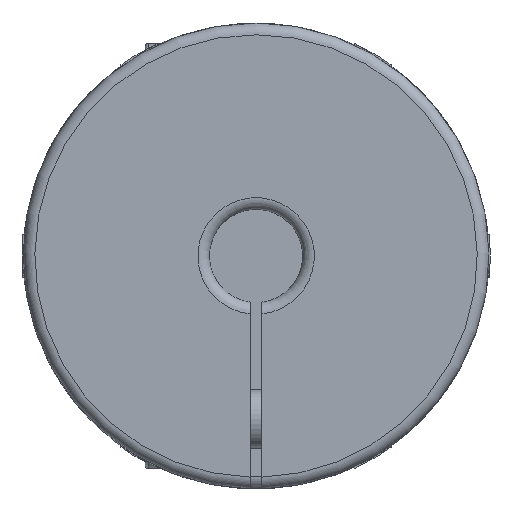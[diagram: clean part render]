
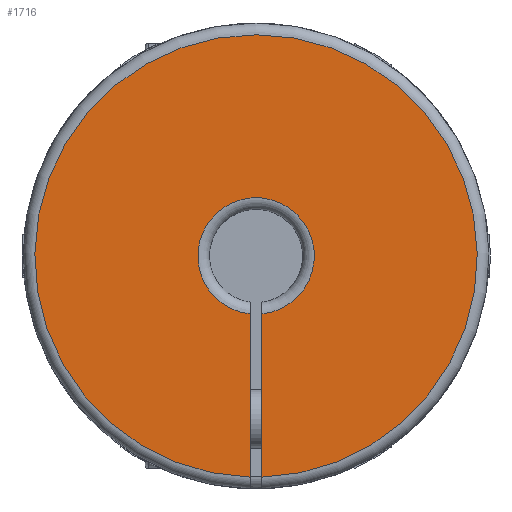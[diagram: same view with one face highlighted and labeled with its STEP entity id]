
A CAD part, front view. The second image highlights one B-rep face of the part: STEP entity #1716.
In plain terms, the highlighted planar face has unit normal (0, -1, 0).
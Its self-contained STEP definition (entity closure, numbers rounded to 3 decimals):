
#160 = EDGE_CURVE ( 'NONE', #5923, #631, #1162, .T. ) ;
#509 = EDGE_LOOP ( 'NONE', ( #2742, #6105, #4441, #4669 ) ) ;
#631 = VERTEX_POINT ( 'NONE', #6112 ) ;
#698 = DIRECTION ( 'NONE',  ( 0., 0., 1. ) ) ;
#809 = DIRECTION ( 'NONE',  ( 0., 1., 0. ) ) ;
#828 = LINE ( 'NONE', #6214, #1736 ) ;
#1162 = CIRCLE ( 'NONE', #5119, 19. ) ;
#1250 = DIRECTION ( 'NONE',  ( 0., 0., 1. ) ) ;
#1716 = ADVANCED_FACE ( 'NONE', ( #4108 ), #4591, .F. ) ;
#1736 = VECTOR ( 'NONE', #1872, 1000. ) ;
#1872 = DIRECTION ( 'NONE',  ( 0., 0., -1. ) ) ;
#2039 = VECTOR ( 'NONE', #698, 1000. ) ;
#2207 = DIRECTION ( 'NONE',  ( 0., 0., -1. ) ) ;
#2504 = CIRCLE ( 'NONE', #6036, 5. ) ;
#2561 = CARTESIAN_POINT ( 'NONE',  ( -0.5, -5., -4.975 ) ) ;
#2612 = CARTESIAN_POINT ( 'NONE',  ( -0.5, -5., 0. ) ) ;
#2742 = ORIENTED_EDGE ( 'NONE', *, *, #160, .T. ) ;
#2950 = DIRECTION ( 'NONE',  ( 0., 0., -1. ) ) ;
#3405 = EDGE_CURVE ( 'NONE', #4410, #6158, #2504, .T. ) ;
#3424 = DIRECTION ( 'NONE',  ( 0., -1., 0. ) ) ;
#3635 = CARTESIAN_POINT ( 'NONE',  ( -5., -5., 0. ) ) ;
#3923 = AXIS2_PLACEMENT_3D ( 'NONE', #3635, #809, #1250 ) ;
#4095 = LINE ( 'NONE', #2612, #2039 ) ;
#4108 = FACE_OUTER_BOUND ( 'NONE', #509, .T. ) ;
#4197 = CARTESIAN_POINT ( 'NONE',  ( 0., -5., 0. ) ) ;
#4203 = EDGE_CURVE ( 'NONE', #4410, #5923, #828, .T. ) ;
#4228 = DIRECTION ( 'NONE',  ( 0., -1., 0. ) ) ;
#4410 = VERTEX_POINT ( 'NONE', #4914 ) ;
#4441 = ORIENTED_EDGE ( 'NONE', *, *, #3405, .F. ) ;
#4591 = PLANE ( 'NONE',  #3923 ) ;
#4669 = ORIENTED_EDGE ( 'NONE', *, *, #4203, .T. ) ;
#4783 = CARTESIAN_POINT ( 'NONE',  ( 0., -5., 0. ) ) ;
#4914 = CARTESIAN_POINT ( 'NONE',  ( 0.5, -5., -4.975 ) ) ;
#5009 = EDGE_CURVE ( 'NONE', #631, #6158, #4095, .T. ) ;
#5119 = AXIS2_PLACEMENT_3D ( 'NONE', #4197, #4228, #2207 ) ;
#5923 = VERTEX_POINT ( 'NONE', #6229 ) ;
#6036 = AXIS2_PLACEMENT_3D ( 'NONE', #4783, #3424, #2950 ) ;
#6105 = ORIENTED_EDGE ( 'NONE', *, *, #5009, .T. ) ;
#6112 = CARTESIAN_POINT ( 'NONE',  ( -0.5, -5., -18.993 ) ) ;
#6158 = VERTEX_POINT ( 'NONE', #2561 ) ;
#6214 = CARTESIAN_POINT ( 'NONE',  ( 0.5, -5., 0. ) ) ;
#6229 = CARTESIAN_POINT ( 'NONE',  ( 0.5, -5., -18.993 ) ) ;
